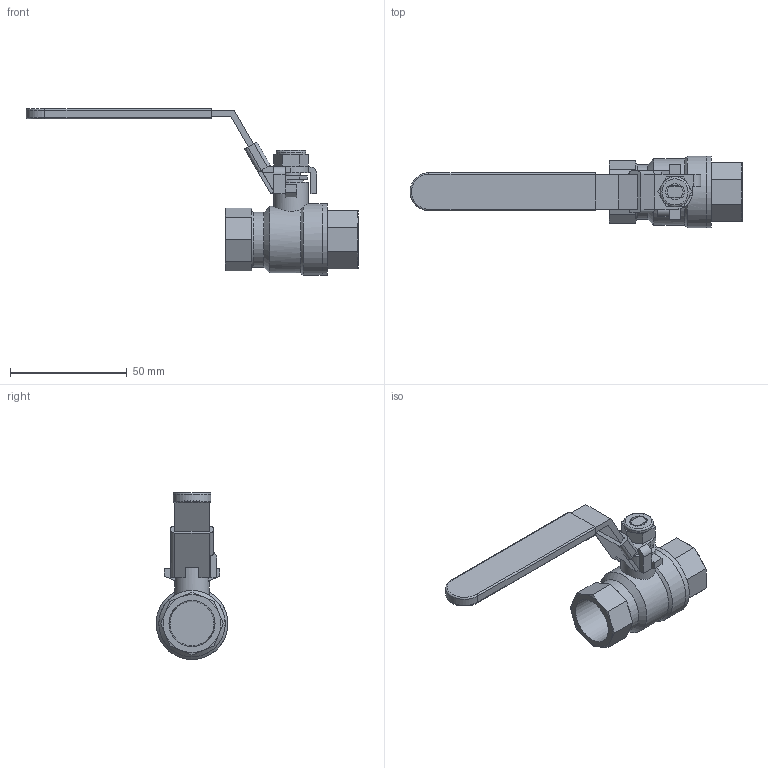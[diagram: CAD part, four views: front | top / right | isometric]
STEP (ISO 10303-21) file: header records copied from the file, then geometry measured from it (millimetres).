
FILE_DESCRIPTION((' '),'2;1');
FILE_NAME('\\JOMARNAS\Data\Marketing\Public\CAD\Brass\Leaded\JF-100T-LH\0.5_JF-100T-LH_100-103LHFusionCopy.stp.step','2017-07-20T08:23:30',(' '),(' '),' ','ACIS',' ');
FILE_SCHEMA(('CONFIG_CONTROL_DESIGN'));
Length unit declared in the file: inch
Products named in the file (9): \\JOMARNAS\Data\Marketing\Public\CAD\Brass\Leaded\JF-100T-LH\0.5_JF-100T-LH_100-103LHFusionCopy.stp.step; Body1; Body2; Body3; Body4; Body5; Body6; Body7; Body8
Assembly tree (8 placements, depth 2):
  \\JOMARNAS\Data\Marketing\Public\CAD\Brass\Leaded\JF-100T-LH\0.5_JF-100T-LH_100-103LHFusionCopy.stp.step
    Body1
    Body2
    Body3
    Body4
    Body5
    Body6
    Body7
    Body8
Bounding box: 142.27 x 30.73 x 71.55 mm (x, y, z)
Volume: 40340.2 mm3; surface area: 21246.8 mm2
Topology: 8 solids, 8 shells, 168 faces, 396 edges, 249 vertices
Faces by surface type: plane 111, cylinder 27, cone 19, bspline 8, torus 3
Full cylindrical faces by diameter (mm): 6.858 x1, 7.874 x1, 8.509 x1, 10.668 x1, 12.751 x1, 14.986 x1, 23.495 x1, 28.448 x1, 30.734 x2
Entity records: 6034 total; most frequent: CARTESIAN_POINT 1058, DIRECTION 788, ORIENTED_EDGE 748, EDGE_CURVE 374, AXIS2_PLACEMENT_3D 274, VERTEX_POINT 242, VECTOR 240, LINE 240
